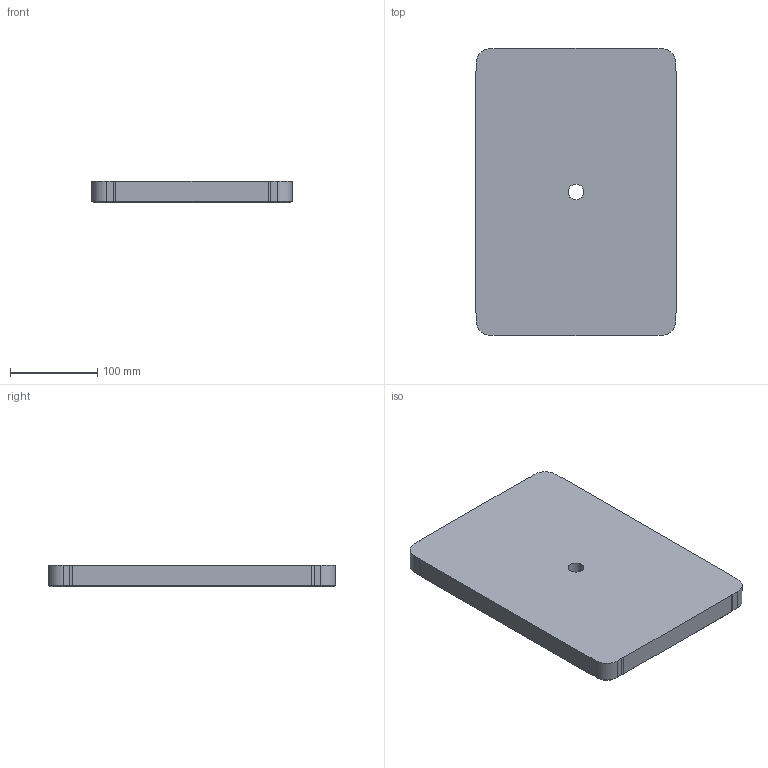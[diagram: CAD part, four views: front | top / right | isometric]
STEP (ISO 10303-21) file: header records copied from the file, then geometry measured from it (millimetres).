
FILE_DESCRIPTION (( 'STEP AP214' ), '1' );
FILE_NAME ('DS-Formeinsatz 230_330_25.STEP', '2024-02-29T10:02:52', ( '' ), ( '' ), 'SwSTEP 2.0', 'SolidWorks 2020', '' );
FILE_SCHEMA (( 'AUTOMOTIVE_DESIGN' ));
Length unit declared in the file: millimetre
Products named in the file (1): DS-Formeinsatz 230_330_25
Bounding box: 230 x 330 x 25 mm (x, y, z)
Volume: 1873062.8 mm3; surface area: 181388.2 mm2
Topology: 1 solids, 1 shells, 72 faces, 172 edges, 102 vertices
Faces by surface type: plane 26, cone 26, cylinder 20
Full cylindrical faces by diameter (mm): 8.5 x6, 18 x1, 18.5 x1
Entity records: 1924 total; most frequent: DIRECTION 340, CARTESIAN_POINT 335, ORIENTED_EDGE 286, EDGE_CURVE 143, AXIS2_PLACEMENT_3D 132, EDGE_LOOP 96, VERTEX_POINT 95, FACE_OUTER_BOUND 80
